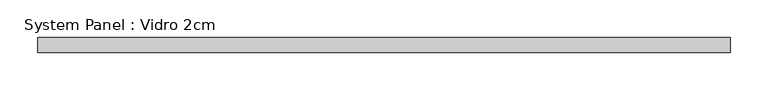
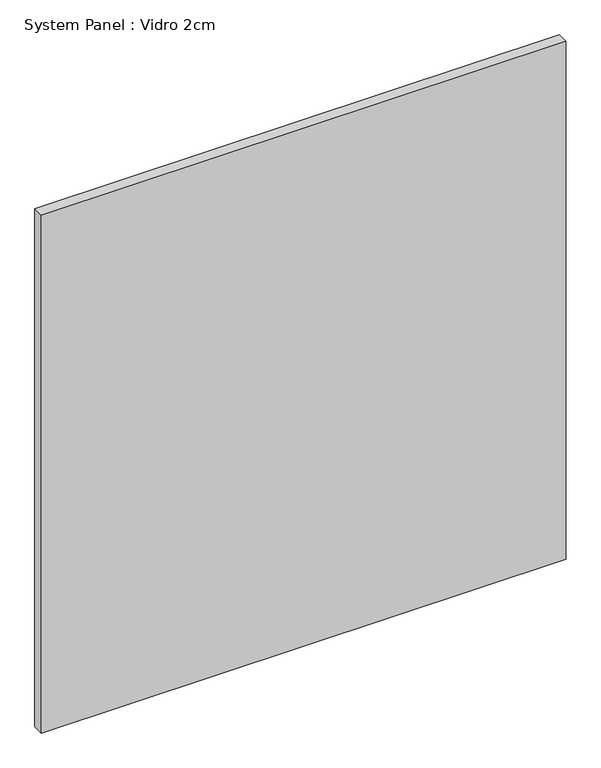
"""IFC4 building model written with IfcOpenShell, lengths in millimetres: plate geometry, System Panel : Vidro 2cm."""

from ifc_helpers import new_model, si_unit, origin, origin_with_axes, place, context, project, spatial, polyline, outline, extrude, source, transform, mapped, element, save


def system_panel_vidro_2cm_9368d487(model_context):
    return source(origin(), model_context, "Body", "SweptSolid", [
        extrude(outline(polyline([(460.0000002, -20.0), (-460.0000002, -20.0), (-460.0000002, 0.0), (460.0000002, 0.0), (460.0000002, -20.0)])), origin_with_axes(), (0.0, 0.0, 1.0), 960.0),
    ])


if __name__ == "__main__":
    model = new_model("IFC4")
    model_context = context("Model", 3, world=origin())
    ifc_project = project(units=[si_unit("LENGTHUNIT", "METRE", prefix="MILLI")], contexts=[model_context])
    site = spatial("IfcSite", under=ifc_project)
    building = spatial("IfcBuilding", under=site)
    placement = place(None, origin())
    system_panel_vidro_2cm_shape = system_panel_vidro_2cm_9368d487(model_context)
    element("IfcPlate", 1, ObjectType="System Panel : Vidro 2cm", at=placement, inside=building, context=model_context, shape_type="MappedRepresentation", body=[
        mapped(system_panel_vidro_2cm_shape, transform((0.0, 0.0, 0.0), x_axis=(1.0, 0.0, 0.0), y_axis=(0.0, 1.0, 0.0), z_axis=(0.0, 0.0, 1.0))),
    ])
    save(model, "model.ifc")
